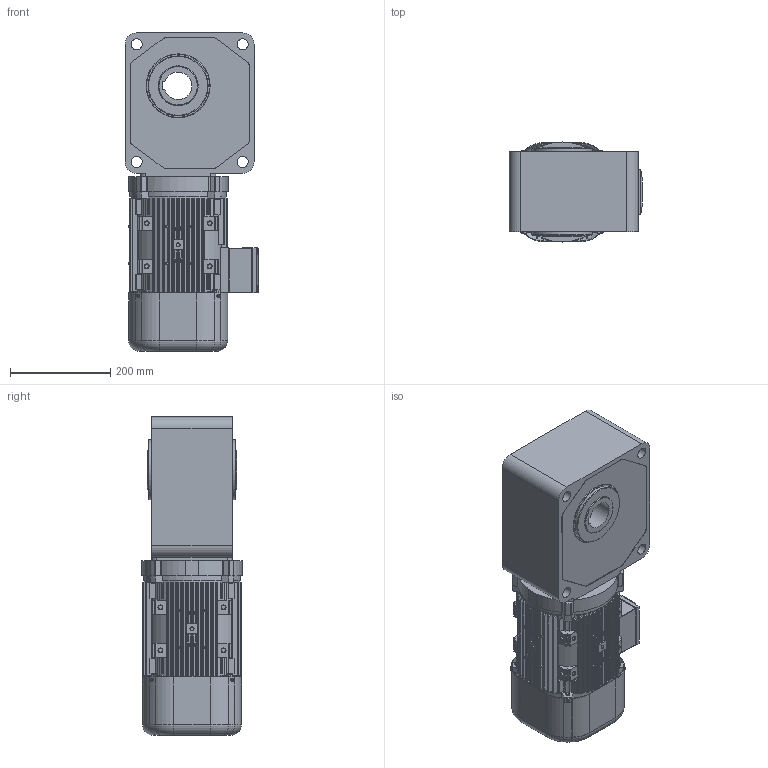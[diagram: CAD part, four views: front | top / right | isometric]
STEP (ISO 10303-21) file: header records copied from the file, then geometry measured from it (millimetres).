
FILE_DESCRIPTION((''),'2;1');
FILE_NAME('D:\01_작성 문서\2011\01 도면작업\00 그외\20110428_동력용 직교형 중공축 홈페이지 3D모형\PCH55-(5~60)-EC(D)220R4B.stp','2013-04-16T11:06:22',('jingon'),(''),'Autodesk Inventor 2012','Autodesk Inventor 2012','');
FILE_SCHEMA(('AUTOMOTIVE_DESIGN { 1 0 10303 214 1 1 1 1 }'));
Length unit declared in the file: millimetre
Products named in the file (14): PCH55-(5~60)-EC(D)220R4B; 100L 2.2kW FRAME L_T 20091124; RUBBER GASKET FOR ASM; Lead box EA(B) ASS'Y; LEAD BOX A 20090609; LEAD BOX B 20090609; 552400800-M4XL8; 0570004400_SKINTOP PG11; 0570004400_BED; 0570004400_CAP; 0570004400_Rubber; 554280302-M8-L30; 100L 2.2kW FAN COVER BRAKE TYPE 116.5L 20130416; 중공축_2200W_50F
Assembly tree (23 placements, depth 3):
  PCH55-(5~60)-EC(D)220R4B
    100L 2.2kW FRAME L_T 20091124
    RUBBER GASKET FOR ASM
    554280302-M8-L30  x4
    552400800-M4XL8  x4
    100L 2.2kW FAN COVER BRAKE TYPE 116.5L 20130416
    중공축_2200W_50F
  Lead box EA(B) ASS'Y
    LEAD BOX A 20090609
    LEAD BOX B 20090609
    RUBBER GASKET FOR ASM
    552400800-M4XL8  x4
    0570004400_SKINTOP PG11
      0570004400_BED
      0570004400_CAP
      0570004400_Rubber
Bounding box: 267.5 x 200 x 636.5 mm (x, y, z)
Volume: 13763197.9 mm3; surface area: 1129605.3 mm2
Topology: 22 solids, 22 shells, 1771 faces, 4730 edges, 3112 vertices
Faces by surface type: plane 880, cylinder 720, cone 93, torus 67, bspline 11
Full cylindrical faces by diameter (mm): 3.2 x8, 3.242 x14, 3.6 x4, 4 x8, 5 x8, 6 x5, 6.5 x3, 6.647 x12, 7 x8, 8 x16, 10.2 x1, 10.7 x1, 12 x4, 13 x4, 13.1 x1, 13.4 x2, 18.4 x1, 18.6 x1, 18.8 x1, 21 x1, 22 x4, 22.2 x1, 32 x4, 120 x2, 175 x1, 188 x3
Entity records: 51875 total; most frequent: CARTESIAN_POINT 10180, DIRECTION 8811, ORIENTED_EDGE 8114, EDGE_CURVE 4057, AXIS2_PLACEMENT_3D 3333, VERTEX_POINT 2768, VECTOR 2145, LINE 2145
